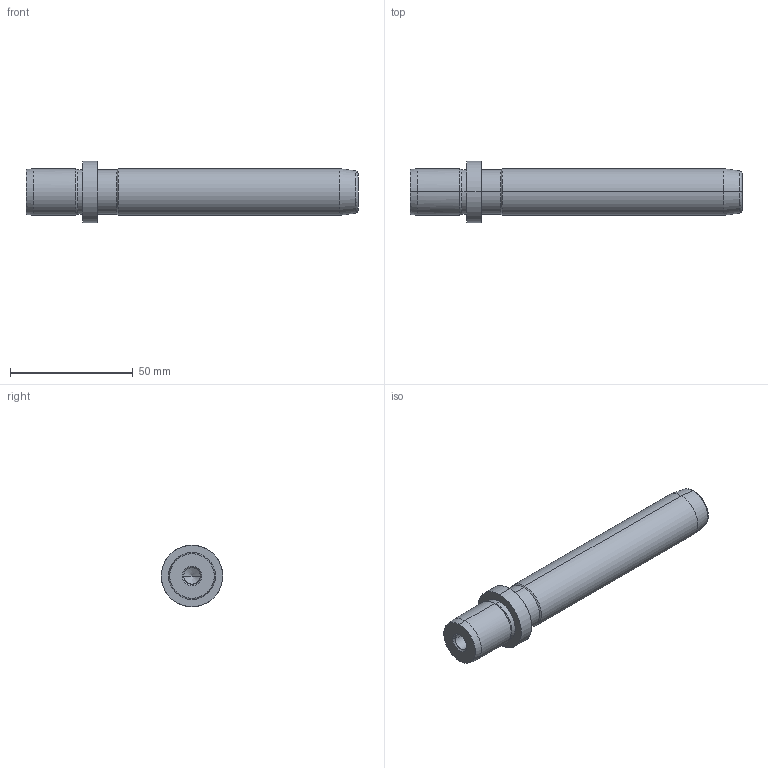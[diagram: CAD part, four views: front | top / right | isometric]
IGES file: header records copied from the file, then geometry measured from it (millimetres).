
Start section: START RECORD GO HERE.
Global section: file name: 718-19x112.igs; native system: DASSAULT SYSTEMES CATIA V5 R20 - www.3ds.com; preprocessor: CATIA Version 5 Release 20 ; author: Utente; organization: NB04-ASUS; date: 20210102.164410; units: millimetre
Bounding box: 135 x 25 x 25 mm (x, y, z)
Surface area: 10071.5 mm2 (no closed solid volume)
Topology: 0 solids, 0 shells, 36 faces, 196 edges, 192 vertices
Faces by surface type: revolution 32, plane 4
